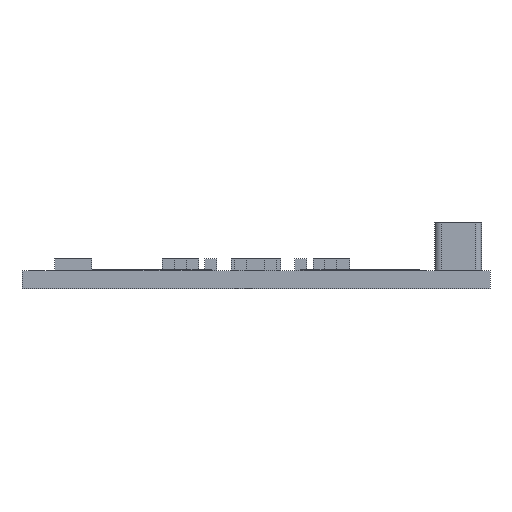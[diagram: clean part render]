
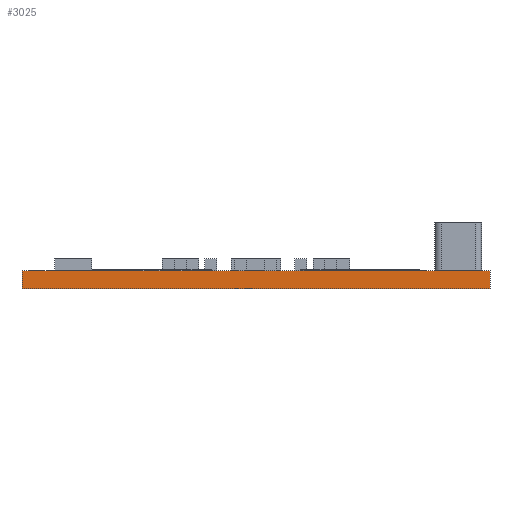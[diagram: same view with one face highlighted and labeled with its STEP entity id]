
A CAD part, front view. The second image highlights one B-rep face of the part: STEP entity #3025.
In plain terms, the highlighted planar face has unit normal (0, -1, 0).
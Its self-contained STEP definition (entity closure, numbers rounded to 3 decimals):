
#59 = PLANE('',#60);
#60 = AXIS2_PLACEMENT_3D('',#61,#62,#63);
#61 = CARTESIAN_POINT('',(-19.5,-29.75,0.));
#62 = DIRECTION('',(-1.,0.,0.));
#63 = DIRECTION('',(0.,1.,0.));
#87 = PLANE('',#88);
#88 = AXIS2_PLACEMENT_3D('',#89,#90,#91);
#89 = CARTESIAN_POINT('',(0.,0.,1.5));
#90 = DIRECTION('',(-0.,-0.,-1.));
#91 = DIRECTION('',(-1.,0.,0.));
#115 = PLANE('',#116);
#116 = AXIS2_PLACEMENT_3D('',#117,#118,#119);
#117 = CARTESIAN_POINT('',(19.5,29.75,0.));
#118 = DIRECTION('',(1.,0.,0.));
#119 = DIRECTION('',(0.,-1.,0.));
#141 = PLANE('',#142);
#142 = AXIS2_PLACEMENT_3D('',#143,#144,#145);
#143 = CARTESIAN_POINT('',(0.,0.,0.));
#144 = DIRECTION('',(-0.,-0.,-1.));
#145 = DIRECTION('',(-1.,0.,0.));
#156 = EDGE_CURVE('',#157,#159,#161,.T.);
#157 = VERTEX_POINT('',#158);
#158 = CARTESIAN_POINT('',(-19.5,-29.75,0.));
#159 = VERTEX_POINT('',#160);
#160 = CARTESIAN_POINT('',(-19.5,-29.75,1.5));
#161 = SURFACE_CURVE('',#162,(#166,#173),.PCURVE_S1.);
#162 = LINE('',#163,#164);
#163 = CARTESIAN_POINT('',(-19.5,-29.75,0.));
#164 = VECTOR('',#165,1.);
#165 = DIRECTION('',(0.,0.,1.));
#166 = PCURVE('',#59,#167);
#167 = DEFINITIONAL_REPRESENTATION('',(#168),#172);
#168 = LINE('',#169,#170);
#169 = CARTESIAN_POINT('',(0.,0.));
#170 = VECTOR('',#171,1.);
#171 = DIRECTION('',(0.,-1.));
#172 = ( GEOMETRIC_REPRESENTATION_CONTEXT(2) 
PARAMETRIC_REPRESENTATION_CONTEXT() REPRESENTATION_CONTEXT('2D SPACE',''
  ) );
#173 = PCURVE('',#174,#179);
#174 = PLANE('',#175);
#175 = AXIS2_PLACEMENT_3D('',#176,#177,#178);
#176 = CARTESIAN_POINT('',(19.5,-29.75,0.));
#177 = DIRECTION('',(0.,-1.,0.));
#178 = DIRECTION('',(-1.,0.,0.));
#179 = DEFINITIONAL_REPRESENTATION('',(#180),#184);
#180 = LINE('',#181,#182);
#181 = CARTESIAN_POINT('',(39.,0.));
#182 = VECTOR('',#183,1.);
#183 = DIRECTION('',(0.,-1.));
#184 = ( GEOMETRIC_REPRESENTATION_CONTEXT(2) 
PARAMETRIC_REPRESENTATION_CONTEXT() REPRESENTATION_CONTEXT('2D SPACE',''
  ) );
#234 = VERTEX_POINT('',#235);
#235 = CARTESIAN_POINT('',(19.5,-29.75,1.5));
#256 = EDGE_CURVE('',#257,#234,#259,.T.);
#257 = VERTEX_POINT('',#258);
#258 = CARTESIAN_POINT('',(19.5,-29.75,0.));
#259 = SURFACE_CURVE('',#260,(#264,#271),.PCURVE_S1.);
#260 = LINE('',#261,#262);
#261 = CARTESIAN_POINT('',(19.5,-29.75,0.));
#262 = VECTOR('',#263,1.);
#263 = DIRECTION('',(0.,0.,1.));
#264 = PCURVE('',#115,#265);
#265 = DEFINITIONAL_REPRESENTATION('',(#266),#270);
#266 = LINE('',#267,#268);
#267 = CARTESIAN_POINT('',(59.5,0.));
#268 = VECTOR('',#269,1.);
#269 = DIRECTION('',(0.,-1.));
#270 = ( GEOMETRIC_REPRESENTATION_CONTEXT(2) 
PARAMETRIC_REPRESENTATION_CONTEXT() REPRESENTATION_CONTEXT('2D SPACE',''
  ) );
#271 = PCURVE('',#174,#272);
#272 = DEFINITIONAL_REPRESENTATION('',(#273),#277);
#273 = LINE('',#274,#275);
#274 = CARTESIAN_POINT('',(0.,-0.));
#275 = VECTOR('',#276,1.);
#276 = DIRECTION('',(0.,-1.));
#277 = ( GEOMETRIC_REPRESENTATION_CONTEXT(2) 
PARAMETRIC_REPRESENTATION_CONTEXT() REPRESENTATION_CONTEXT('2D SPACE',''
  ) );
#305 = EDGE_CURVE('',#257,#157,#306,.T.);
#306 = SURFACE_CURVE('',#307,(#311,#318),.PCURVE_S1.);
#307 = LINE('',#308,#309);
#308 = CARTESIAN_POINT('',(19.5,-29.75,0.));
#309 = VECTOR('',#310,1.);
#310 = DIRECTION('',(-1.,0.,0.));
#311 = PCURVE('',#141,#312);
#312 = DEFINITIONAL_REPRESENTATION('',(#313),#317);
#313 = LINE('',#314,#315);
#314 = CARTESIAN_POINT('',(-19.5,-29.75));
#315 = VECTOR('',#316,1.);
#316 = DIRECTION('',(1.,0.));
#317 = ( GEOMETRIC_REPRESENTATION_CONTEXT(2) 
PARAMETRIC_REPRESENTATION_CONTEXT() REPRESENTATION_CONTEXT('2D SPACE',''
  ) );
#318 = PCURVE('',#174,#319);
#319 = DEFINITIONAL_REPRESENTATION('',(#320),#324);
#320 = LINE('',#321,#322);
#321 = CARTESIAN_POINT('',(0.,-0.));
#322 = VECTOR('',#323,1.);
#323 = DIRECTION('',(1.,0.));
#324 = ( GEOMETRIC_REPRESENTATION_CONTEXT(2) 
PARAMETRIC_REPRESENTATION_CONTEXT() REPRESENTATION_CONTEXT('2D SPACE',''
  ) );
#472 = EDGE_CURVE('',#234,#159,#473,.T.);
#473 = SURFACE_CURVE('',#474,(#478,#485),.PCURVE_S1.);
#474 = LINE('',#475,#476);
#475 = CARTESIAN_POINT('',(19.5,-29.75,1.5));
#476 = VECTOR('',#477,1.);
#477 = DIRECTION('',(-1.,0.,0.));
#478 = PCURVE('',#87,#479);
#479 = DEFINITIONAL_REPRESENTATION('',(#480),#484);
#480 = LINE('',#481,#482);
#481 = CARTESIAN_POINT('',(-19.5,-29.75));
#482 = VECTOR('',#483,1.);
#483 = DIRECTION('',(1.,0.));
#484 = ( GEOMETRIC_REPRESENTATION_CONTEXT(2) 
PARAMETRIC_REPRESENTATION_CONTEXT() REPRESENTATION_CONTEXT('2D SPACE',''
  ) );
#485 = PCURVE('',#174,#486);
#486 = DEFINITIONAL_REPRESENTATION('',(#487),#491);
#487 = LINE('',#488,#489);
#488 = CARTESIAN_POINT('',(0.,-1.5));
#489 = VECTOR('',#490,1.);
#490 = DIRECTION('',(1.,0.));
#491 = ( GEOMETRIC_REPRESENTATION_CONTEXT(2) 
PARAMETRIC_REPRESENTATION_CONTEXT() REPRESENTATION_CONTEXT('2D SPACE',''
  ) );
#3025 = ADVANCED_FACE('',(#3026),#174,.T.);
#3026 = FACE_BOUND('',#3027,.T.);
#3027 = EDGE_LOOP('',(#3028,#3029,#3030,#3031));
#3028 = ORIENTED_EDGE('',*,*,#256,.T.);
#3029 = ORIENTED_EDGE('',*,*,#472,.T.);
#3030 = ORIENTED_EDGE('',*,*,#156,.F.);
#3031 = ORIENTED_EDGE('',*,*,#305,.F.);
